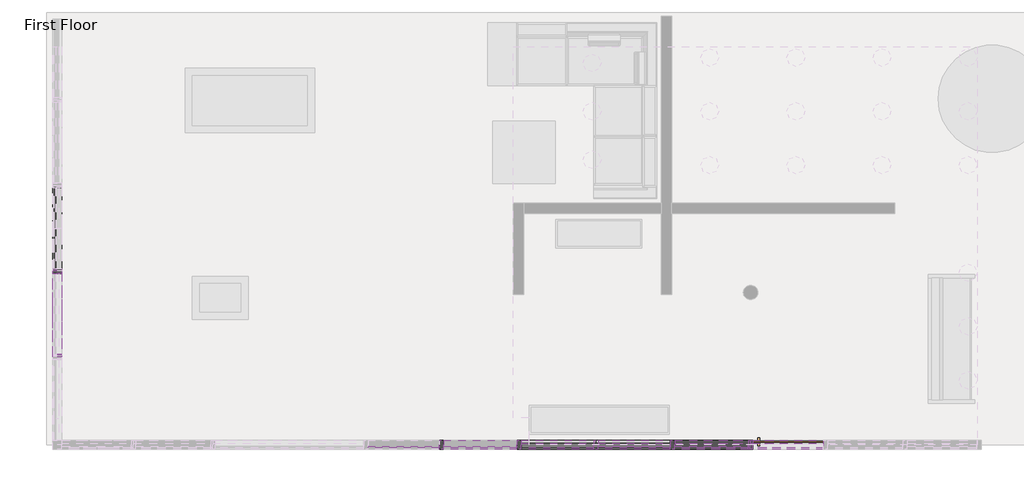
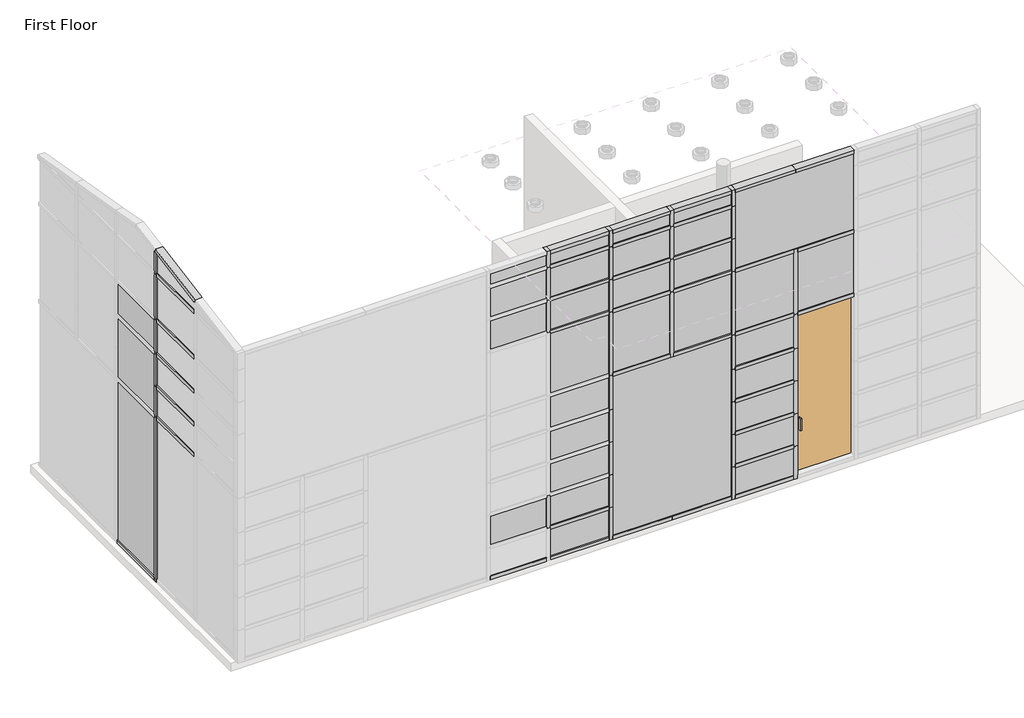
# One storey, part 2 of 5: 75 members, 33 plates, 1 door.
"""IFC4 building model written with IfcOpenShell, lengths in millimetres."""

from ifc_helpers import new_model, si_unit, origin, place, context, project, spatial, transform, mapped, element, save
from components import curtain_wall_sgl_glass_curtain_wall_sgl_glass_4a097fc2, rectangular_mullion_rectangular_mullion_1_6e77e263, rectangular_mullion_rectangular_mullion_1_75d1e245, rectangular_mullion_rectangular_mullion_1_2b49869a, rectangular_mullion_rectangular_mullion_1_51170729, rectangular_mullion_rectangular_mullion_1_b3f2e294, rectangular_mullion_rectangular_mullion_1_c0a49549, rectangular_mullion_rectangular_mullion_1_1e21fa0c, rectangular_mullion_rectangular_mullion_1_54137339, rectangular_mullion_rectangular_mullion_1_29433100, rectangular_mullion_rectangular_mullion_1_bbfe0ad0, rectangular_mullion_rectangular_mullion_1_ff0bbc08, rectangular_mullion_rectangular_mullion_1_d58eba0a, rectangular_mullion_rectangular_mullion_1_1bcf3fab, rectangular_mullion_rectangular_mullion_1_5234fe7d, rectangular_mullion_rectangular_mullion_1_c5460103, rectangular_mullion_rectangular_mullion_1_691106c5, rectangular_mullion_rectangular_mullion_1_d740f499, rectangular_mullion_rectangular_mullion_1_b03e071e, rectangular_mullion_rectangular_mullion_1_b5e65c95, rectangular_mullion_rectangular_mullion_1_7db1855a, rectangular_mullion_rectangular_mullion_1_4bdfacaf, system_panel_glazed_b7f75081, system_panel_glazed_c2a5712b, system_panel_glazed_cc9c3ac5, system_panel_glazed_cbd16b08, system_panel_glazed_2df7e5ea, system_panel_glazed_2ca8d0b5, system_panel_glazed_4e6e4b53, system_panel_glazed_07a2db1d, system_panel_glazed_ced5f5b3, system_panel_glazed_e0c4105e, system_panel_glazed_fd82c8fe, system_panel_solid_grey_06e47abe, system_panel_solid_grey_c3fb54ce, system_panel_solid_grey_7a3e4570, system_panel_solid_red_d6829c82, system_panel_solid_red_5ddafcfa, system_panel_solid_red_a342d3c4, system_panel_solid_white_9a74bd08

model = new_model("IFC4")

# Units and contexts
model_context = context("Model", 3, world=origin())
ifc_project = project(units=[si_unit("LENGTHUNIT", "METRE", prefix="MILLI")], contexts=[model_context])

# Site, building, storey
site = spatial("IfcSite", under=ifc_project)
building = spatial("IfcBuilding", under=site)
storey = spatial("IfcBuildingStorey", under=building, Name="First Floor", Elevation=0.0)

# Door
placement = place(None, origin())
curtain_wall_sgl_glass_curtain_wall_sgl_glass_shape = curtain_wall_sgl_glass_curtain_wall_sgl_glass_4a097fc2(model_context)
element("IfcDoor", 1, ObjectType="Curtain Wall Sgl Glass : Curtain Wall Sgl Glass", at=placement, inside=storey, context=model_context, shape_type="MappedRepresentation", body=[
    mapped(curtain_wall_sgl_glass_curtain_wall_sgl_glass_shape, transform((-337.8110551, 6074.9400612, 63.5), x_axis=(1.0, 0.0, 0.0), y_axis=(0.0, 1.0, 0.0), z_axis=(0.0, 0.0, 1.0))),
])

# Members
rectangular_mullion_rectangular_mullion_1_shape = rectangular_mullion_rectangular_mullion_1_6e77e263(model_context)
element("IfcMember", 2, ObjectType="Rectangular Mullion : Rectangular Mullion 1", at=placement, inside=storey, context=model_context, shape_type="MappedRepresentation", body=[
    mapped(rectangular_mullion_rectangular_mullion_1_shape, transform((-1972.9360551, 6074.9400612, 0.0), x_axis=(-1.0, 0.0, 0.0), y_axis=(0.0, 1.0, 0.0), z_axis=(0.0, 0.0, -1.0))),
])
element("IfcMember", 3, ObjectType="Rectangular Mullion : Rectangular Mullion 1", at=placement, inside=storey, context=model_context, shape_type="MappedRepresentation", body=[
    mapped(rectangular_mullion_rectangular_mullion_1_shape, transform((-4141.0074836, 6074.9400612, 0.0), x_axis=(-1.0, 0.0, 0.0), y_axis=(0.0, 1.0, 0.0), z_axis=(0.0, 0.0, -1.0))),
])
element("IfcMember", 4, ObjectType="Rectangular Mullion : Rectangular Mullion 1", at=placement, inside=storey, context=model_context, shape_type="MappedRepresentation", body=[
    mapped(rectangular_mullion_rectangular_mullion_1_shape, transform((-870.7574836, 6074.9400612, 0.0), x_axis=(-1.0, 0.0, 0.0), y_axis=(0.0, 1.0, 0.0), z_axis=(0.0, 0.0, -1.0))),
])
element("IfcMember", 5, ObjectType="Rectangular Mullion : Rectangular Mullion 1", at=placement, inside=storey, context=model_context, shape_type="MappedRepresentation", body=[
    mapped(rectangular_mullion_rectangular_mullion_1_shape, transform((-870.7574836, 6074.9400612, 1219.2), x_axis=(-1.0, 0.0, 0.0), y_axis=(0.0, 1.0, 0.0), z_axis=(0.0, 0.0, -1.0))),
])
element("IfcMember", 6, ObjectType="Rectangular Mullion : Rectangular Mullion 1", at=placement, inside=storey, context=model_context, shape_type="MappedRepresentation", body=[
    mapped(rectangular_mullion_rectangular_mullion_1_shape, transform((-1972.9360551, 6074.9400612, 1219.2), x_axis=(-1.0, 0.0, 0.0), y_axis=(0.0, 1.0, 0.0), z_axis=(0.0, 0.0, -1.0))),
])
element("IfcMember", 7, ObjectType="Rectangular Mullion : Rectangular Mullion 1", at=placement, inside=storey, context=model_context, shape_type="MappedRepresentation", body=[
    mapped(rectangular_mullion_rectangular_mullion_1_shape, transform((-4141.0074836, 6074.9400612, 1219.2), x_axis=(-1.0, 0.0, 0.0), y_axis=(0.0, 1.0, 0.0), z_axis=(0.0, 0.0, -1.0))),
])
element("IfcMember", 8, ObjectType="Rectangular Mullion : Rectangular Mullion 1", at=placement, inside=storey, context=model_context, shape_type="MappedRepresentation", body=[
    mapped(rectangular_mullion_rectangular_mullion_1_shape, transform((-870.7574836, 6074.9400612, 1828.8), x_axis=(-1.0, 0.0, 0.0), y_axis=(0.0, 1.0, 0.0), z_axis=(0.0, 0.0, -1.0))),
])
element("IfcMember", 9, ObjectType="Rectangular Mullion : Rectangular Mullion 1", at=placement, inside=storey, context=model_context, shape_type="MappedRepresentation", body=[
    mapped(rectangular_mullion_rectangular_mullion_1_shape, transform((-1972.9360551, 6074.9400612, 1828.8), x_axis=(-1.0, 0.0, 0.0), y_axis=(0.0, 1.0, 0.0), z_axis=(0.0, 0.0, -1.0))),
])
element("IfcMember", 10, ObjectType="Rectangular Mullion : Rectangular Mullion 1", at=placement, inside=storey, context=model_context, shape_type="MappedRepresentation", body=[
    mapped(rectangular_mullion_rectangular_mullion_1_shape, transform((-4141.0074836, 6074.9400612, 1828.8), x_axis=(-1.0, 0.0, 0.0), y_axis=(0.0, 1.0, 0.0), z_axis=(0.0, 0.0, -1.0))),
])
element("IfcMember", 11, ObjectType="Rectangular Mullion : Rectangular Mullion 1", at=placement, inside=storey, context=model_context, shape_type="MappedRepresentation", body=[
    mapped(rectangular_mullion_rectangular_mullion_1_shape, transform((-870.7574836, 6074.9400612, 609.6), x_axis=(-1.0, 0.0, 0.0), y_axis=(0.0, 1.0, 0.0), z_axis=(0.0, 0.0, -1.0))),
])
element("IfcMember", 12, ObjectType="Rectangular Mullion : Rectangular Mullion 1", at=placement, inside=storey, context=model_context, shape_type="MappedRepresentation", body=[
    mapped(rectangular_mullion_rectangular_mullion_1_shape, transform((-1972.9360551, 6074.9400612, 609.6), x_axis=(-1.0, 0.0, 0.0), y_axis=(0.0, 1.0, 0.0), z_axis=(0.0, 0.0, -1.0))),
])
element("IfcMember", 13, ObjectType="Rectangular Mullion : Rectangular Mullion 1", at=placement, inside=storey, context=model_context, shape_type="MappedRepresentation", body=[
    mapped(rectangular_mullion_rectangular_mullion_1_shape, transform((-4141.0074836, 6074.9400612, 609.6), x_axis=(-1.0, 0.0, 0.0), y_axis=(0.0, 1.0, 0.0), z_axis=(0.0, 0.0, -1.0))),
])
element("IfcMember", 14, ObjectType="Rectangular Mullion : Rectangular Mullion 1", at=placement, inside=storey, context=model_context, shape_type="MappedRepresentation", body=[
    mapped(rectangular_mullion_rectangular_mullion_1_shape, transform((-5243.186055, 6074.9400612, 609.6), x_axis=(-1.0, 0.0, 0.0), y_axis=(0.0, 1.0, 0.0), z_axis=(0.0, 0.0, -1.0))),
])
element("IfcMember", 15, ObjectType="Rectangular Mullion : Rectangular Mullion 1", at=placement, inside=storey, context=model_context, shape_type="MappedRepresentation", body=[
    mapped(rectangular_mullion_rectangular_mullion_1_shape, transform((-1972.9360551, 6074.9400612, 4876.8), x_axis=(-1.0, 0.0, 0.0), y_axis=(0.0, 1.0, 0.0), z_axis=(0.0, 0.0, -1.0))),
])
element("IfcMember", 16, ObjectType="Rectangular Mullion : Rectangular Mullion 1", at=placement, inside=storey, context=model_context, shape_type="MappedRepresentation", body=[
    mapped(rectangular_mullion_rectangular_mullion_1_shape, transform((-3056.9717693, 6074.9400612, 4876.8), x_axis=(-1.0, 0.0, 0.0), y_axis=(0.0, 1.0, 0.0), z_axis=(0.0, 0.0, -1.0))),
])
element("IfcMember", 17, ObjectType="Rectangular Mullion : Rectangular Mullion 1", at=placement, inside=storey, context=model_context, shape_type="MappedRepresentation", body=[
    mapped(rectangular_mullion_rectangular_mullion_1_shape, transform((-4141.0074836, 6074.9400612, 4876.8), x_axis=(-1.0, 0.0, 0.0), y_axis=(0.0, 1.0, 0.0), z_axis=(0.0, 0.0, -1.0))),
])
element("IfcMember", 18, ObjectType="Rectangular Mullion : Rectangular Mullion 1", at=placement, inside=storey, context=model_context, shape_type="MappedRepresentation", body=[
    mapped(rectangular_mullion_rectangular_mullion_1_shape, transform((-5243.186055, 6074.9400612, 4876.8), x_axis=(-1.0, 0.0, 0.0), y_axis=(0.0, 1.0, 0.0), z_axis=(0.0, 0.0, -1.0))),
])
element("IfcMember", 19, ObjectType="Rectangular Mullion : Rectangular Mullion 1", at=placement, inside=storey, context=model_context, shape_type="MappedRepresentation", body=[
    mapped(rectangular_mullion_rectangular_mullion_1_shape, transform((-1972.9360551, 6074.9400612, 4267.2), x_axis=(-1.0, 0.0, 0.0), y_axis=(0.0, 1.0, 0.0), z_axis=(0.0, 0.0, -1.0))),
])
element("IfcMember", 20, ObjectType="Rectangular Mullion : Rectangular Mullion 1", at=placement, inside=storey, context=model_context, shape_type="MappedRepresentation", body=[
    mapped(rectangular_mullion_rectangular_mullion_1_shape, transform((-3056.9717693, 6074.9400612, 4267.2), x_axis=(-1.0, 0.0, 0.0), y_axis=(0.0, 1.0, 0.0), z_axis=(0.0, 0.0, -1.0))),
])
element("IfcMember", 21, ObjectType="Rectangular Mullion : Rectangular Mullion 1", at=placement, inside=storey, context=model_context, shape_type="MappedRepresentation", body=[
    mapped(rectangular_mullion_rectangular_mullion_1_shape, transform((-4141.0074836, 6074.9400612, 4267.2), x_axis=(-1.0, 0.0, 0.0), y_axis=(0.0, 1.0, 0.0), z_axis=(0.0, 0.0, -1.0))),
])
element("IfcMember", 22, ObjectType="Rectangular Mullion : Rectangular Mullion 1", at=placement, inside=storey, context=model_context, shape_type="MappedRepresentation", body=[
    mapped(rectangular_mullion_rectangular_mullion_1_shape, transform((-5243.186055, 6074.9400612, 4267.2), x_axis=(-1.0, 0.0, 0.0), y_axis=(0.0, 1.0, 0.0), z_axis=(0.0, 0.0, -1.0))),
])
element("IfcMember", 23, ObjectType="Rectangular Mullion : Rectangular Mullion 1", at=placement, inside=storey, context=model_context, shape_type="MappedRepresentation", body=[
    mapped(rectangular_mullion_rectangular_mullion_1_shape, transform((-10676.9717693, 8534.9300612, 3657.6), x_axis=(0.0, 1.0, 0.0), y_axis=(1.0, 0.0, 0.0), z_axis=(0.0, 0.0, -1.0))),
])
rectangular_mullion_rectangular_mullion_1_2_shape = rectangular_mullion_rectangular_mullion_1_75d1e245(model_context)
element("IfcMember", 24, ObjectType="Rectangular Mullion : Rectangular Mullion 1", at=placement, inside=storey, context=model_context, shape_type="MappedRepresentation", body=[
    mapped(rectangular_mullion_rectangular_mullion_1_2_shape, transform((-1972.9360551, 6074.9400612, 5486.4), x_axis=(-1.0, 0.0, 0.0), y_axis=(0.0, 1.0, 0.0), z_axis=(0.0, 0.0, -1.0))),
])
element("IfcMember", 25, ObjectType="Rectangular Mullion : Rectangular Mullion 1", at=placement, inside=storey, context=model_context, shape_type="MappedRepresentation", body=[
    mapped(rectangular_mullion_rectangular_mullion_1_2_shape, transform((-3056.9717693, 6074.9400612, 5486.4), x_axis=(-1.0, 0.0, 0.0), y_axis=(0.0, 1.0, 0.0), z_axis=(0.0, 0.0, -1.0))),
])
element("IfcMember", 26, ObjectType="Rectangular Mullion : Rectangular Mullion 1", at=placement, inside=storey, context=model_context, shape_type="MappedRepresentation", body=[
    mapped(rectangular_mullion_rectangular_mullion_1_2_shape, transform((-4141.0074836, 6074.9400612, 5486.4), x_axis=(-1.0, 0.0, 0.0), y_axis=(0.0, 1.0, 0.0), z_axis=(0.0, 0.0, -1.0))),
])
element("IfcMember", 27, ObjectType="Rectangular Mullion : Rectangular Mullion 1", at=placement, inside=storey, context=model_context, shape_type="MappedRepresentation", body=[
    mapped(rectangular_mullion_rectangular_mullion_1_2_shape, transform((-5243.186055, 6074.9400612, 5486.4), x_axis=(-1.0, 0.0, 0.0), y_axis=(0.0, 1.0, 0.0), z_axis=(0.0, 0.0, -1.0))),
])
rectangular_mullion_rectangular_mullion_1_3_shape = rectangular_mullion_rectangular_mullion_1_2b49869a(model_context)
element("IfcMember", 28, ObjectType="Rectangular Mullion : Rectangular Mullion 1", at=placement, inside=storey, context=model_context, shape_type="MappedRepresentation", body=[
    mapped(rectangular_mullion_rectangular_mullion_1_3_shape, transform((-3056.9717693, 6074.9400612, 3048.0), x_axis=(-1.0, 0.0, 0.0), y_axis=(0.0, 1.0, 0.0), z_axis=(0.0, 0.0, -1.0))),
])
rectangular_mullion_rectangular_mullion_1_4_shape = rectangular_mullion_rectangular_mullion_1_51170729(model_context)
element("IfcMember", 29, ObjectType="Rectangular Mullion : Rectangular Mullion 1", at=placement, inside=storey, context=model_context, shape_type="MappedRepresentation", body=[
    mapped(rectangular_mullion_rectangular_mullion_1_4_shape, transform((-870.7574836, 6074.9400612, 2438.4), x_axis=(-1.0, 0.0, 0.0), y_axis=(0.0, 1.0, 0.0), z_axis=(0.0, 0.0, -1.0))),
])
element("IfcMember", 30, ObjectType="Rectangular Mullion : Rectangular Mullion 1", at=placement, inside=storey, context=model_context, shape_type="MappedRepresentation", body=[
    mapped(rectangular_mullion_rectangular_mullion_1_4_shape, transform((-1972.9360551, 6074.9400612, 2438.4), x_axis=(-1.0, 0.0, 0.0), y_axis=(0.0, 1.0, 0.0), z_axis=(0.0, 0.0, -1.0))),
])
element("IfcMember", 31, ObjectType="Rectangular Mullion : Rectangular Mullion 1", at=placement, inside=storey, context=model_context, shape_type="MappedRepresentation", body=[
    mapped(rectangular_mullion_rectangular_mullion_1_4_shape, transform((-4141.0074836, 6074.9400612, 2438.4), x_axis=(-1.0, 0.0, 0.0), y_axis=(0.0, 1.0, 0.0), z_axis=(0.0, 0.0, -1.0))),
])
element("IfcMember", 32, ObjectType="Rectangular Mullion : Rectangular Mullion 1", at=placement, inside=storey, context=model_context, shape_type="MappedRepresentation", body=[
    mapped(rectangular_mullion_rectangular_mullion_1_4_shape, transform((-10676.9717693, 8534.9300612, 4267.2), x_axis=(0.0, 1.0, 0.0), y_axis=(1.0, 0.0, 0.0), z_axis=(0.0, 0.0, -1.0))),
])
rectangular_mullion_rectangular_mullion_1_5_shape = rectangular_mullion_rectangular_mullion_1_b3f2e294(model_context)
element("IfcMember", 33, ObjectType="Rectangular Mullion : Rectangular Mullion 1", at=placement, inside=storey, context=model_context, shape_type="MappedRepresentation", body=[
    mapped(rectangular_mullion_rectangular_mullion_1_5_shape, transform((-1972.9360551, 6074.9400612, 3079.75), x_axis=(-1.0, 0.0, 0.0), y_axis=(0.0, 1.0, 0.0), z_axis=(0.0, 0.0, -1.0))),
])
element("IfcMember", 34, ObjectType="Rectangular Mullion : Rectangular Mullion 1", at=placement, inside=storey, context=model_context, shape_type="MappedRepresentation", body=[
    mapped(rectangular_mullion_rectangular_mullion_1_5_shape, transform((-4141.0074836, 6074.9400612, 3079.75), x_axis=(-1.0, 0.0, 0.0), y_axis=(0.0, 1.0, 0.0), z_axis=(0.0, 0.0, -1.0))),
])
rectangular_mullion_rectangular_mullion_1_6_shape = rectangular_mullion_rectangular_mullion_1_c0a49549(model_context)
element("IfcMember", 35, ObjectType="Rectangular Mullion : Rectangular Mullion 1", at=placement, inside=storey, context=model_context, shape_type="MappedRepresentation", body=[
    mapped(rectangular_mullion_rectangular_mullion_1_6_shape, transform((-839.0074836, 6074.9400612, 3079.75), x_axis=(0.0, 0.0, 1.0), y_axis=(0.0, 1.0, 0.0), z_axis=(-1.0, 0.0, 0.0))),
])
element("IfcMember", 36, ObjectType="Rectangular Mullion : Rectangular Mullion 1", at=placement, inside=storey, context=model_context, shape_type="MappedRepresentation", body=[
    mapped(rectangular_mullion_rectangular_mullion_1_6_shape, transform((-839.0074836, 6074.9400612, 4267.2), x_axis=(0.0, 0.0, 1.0), y_axis=(0.0, 1.0, 0.0), z_axis=(-1.0, 0.0, 0.0))),
])
rectangular_mullion_rectangular_mullion_1_7_shape = rectangular_mullion_rectangular_mullion_1_1e21fa0c(model_context)
element("IfcMember", 37, ObjectType="Rectangular Mullion : Rectangular Mullion 1", at=placement, inside=storey, context=model_context, shape_type="MappedRepresentation", body=[
    mapped(rectangular_mullion_rectangular_mullion_1_7_shape, transform((-3025.2217693, 6074.9400612, 3079.75), x_axis=(0.0, 0.0, 1.0), y_axis=(0.0, 1.0, 0.0), z_axis=(-1.0, 0.0, 0.0))),
])
element("IfcMember", 38, ObjectType="Rectangular Mullion : Rectangular Mullion 1", at=placement, inside=storey, context=model_context, shape_type="MappedRepresentation", body=[
    mapped(rectangular_mullion_rectangular_mullion_1_7_shape, transform((-4109.2574836, 6074.9400612, 3079.75), x_axis=(0.0, 0.0, 1.0), y_axis=(0.0, 1.0, 0.0), z_axis=(-1.0, 0.0, 0.0))),
])
element("IfcMember", 39, ObjectType="Rectangular Mullion : Rectangular Mullion 1", at=placement, inside=storey, context=model_context, shape_type="MappedRepresentation", body=[
    mapped(rectangular_mullion_rectangular_mullion_1_7_shape, transform((-3025.2217693, 6074.9400612, 4876.8), x_axis=(0.0, 0.0, 1.0), y_axis=(0.0, 1.0, 0.0), z_axis=(-1.0, 0.0, 0.0))),
])
element("IfcMember", 40, ObjectType="Rectangular Mullion : Rectangular Mullion 1", at=placement, inside=storey, context=model_context, shape_type="MappedRepresentation", body=[
    mapped(rectangular_mullion_rectangular_mullion_1_7_shape, transform((-4109.2574836, 6074.9400612, 4876.8), x_axis=(0.0, 0.0, 1.0), y_axis=(0.0, 1.0, 0.0), z_axis=(-1.0, 0.0, 0.0))),
])
element("IfcMember", 41, ObjectType="Rectangular Mullion : Rectangular Mullion 1", at=placement, inside=storey, context=model_context, shape_type="MappedRepresentation", body=[
    mapped(rectangular_mullion_rectangular_mullion_1_7_shape, transform((-3025.2217693, 6074.9400612, 5486.4), x_axis=(0.0, 0.0, 1.0), y_axis=(0.0, 1.0, 0.0), z_axis=(-1.0, 0.0, 0.0))),
])
element("IfcMember", 42, ObjectType="Rectangular Mullion : Rectangular Mullion 1", at=placement, inside=storey, context=model_context, shape_type="MappedRepresentation", body=[
    mapped(rectangular_mullion_rectangular_mullion_1_7_shape, transform((-4109.2574836, 6074.9400612, 5486.4), x_axis=(0.0, 0.0, 1.0), y_axis=(0.0, 1.0, 0.0), z_axis=(-1.0, 0.0, 0.0))),
])
element("IfcMember", 43, ObjectType="Rectangular Mullion : Rectangular Mullion 1", at=placement, inside=storey, context=model_context, shape_type="MappedRepresentation", body=[
    mapped(rectangular_mullion_rectangular_mullion_1_7_shape, transform((-3025.2217693, 6074.9400612, 4267.2), x_axis=(0.0, 0.0, 1.0), y_axis=(0.0, 1.0, 0.0), z_axis=(-1.0, 0.0, 0.0))),
])
element("IfcMember", 44, ObjectType="Rectangular Mullion : Rectangular Mullion 1", at=placement, inside=storey, context=model_context, shape_type="MappedRepresentation", body=[
    mapped(rectangular_mullion_rectangular_mullion_1_7_shape, transform((-4109.2574836, 6074.9400612, 4267.2), x_axis=(0.0, 0.0, 1.0), y_axis=(0.0, 1.0, 0.0), z_axis=(-1.0, 0.0, 0.0))),
])
rectangular_mullion_rectangular_mullion_1_8_shape = rectangular_mullion_rectangular_mullion_1_54137339(model_context)
element("IfcMember", 45, ObjectType="Rectangular Mullion : Rectangular Mullion 1", at=placement, inside=storey, context=model_context, shape_type="MappedRepresentation", body=[
    mapped(rectangular_mullion_rectangular_mullion_1_8_shape, transform((-1941.1860551, 6074.9400612, 3079.75), x_axis=(0.0, 0.0, 1.0), y_axis=(0.0, 1.0, 0.0), z_axis=(-1.0, 0.0, 0.0))),
])
element("IfcMember", 46, ObjectType="Rectangular Mullion : Rectangular Mullion 1", at=placement, inside=storey, context=model_context, shape_type="MappedRepresentation", body=[
    mapped(rectangular_mullion_rectangular_mullion_1_8_shape, transform((-1941.1860551, 6074.9400612, 2438.4), x_axis=(0.0, 0.0, 1.0), y_axis=(0.0, 1.0, 0.0), z_axis=(-1.0, 0.0, 0.0))),
])
element("IfcMember", 47, ObjectType="Rectangular Mullion : Rectangular Mullion 1", at=placement, inside=storey, context=model_context, shape_type="MappedRepresentation", body=[
    mapped(rectangular_mullion_rectangular_mullion_1_8_shape, transform((-1941.1860551, 6074.9400612, 1219.2), x_axis=(0.0, 0.0, 1.0), y_axis=(0.0, 1.0, 0.0), z_axis=(-1.0, 0.0, 0.0))),
])
element("IfcMember", 48, ObjectType="Rectangular Mullion : Rectangular Mullion 1", at=placement, inside=storey, context=model_context, shape_type="MappedRepresentation", body=[
    mapped(rectangular_mullion_rectangular_mullion_1_8_shape, transform((-1941.1860551, 6074.9400612, 1828.8), x_axis=(0.0, 0.0, 1.0), y_axis=(0.0, 1.0, 0.0), z_axis=(-1.0, 0.0, 0.0))),
])
element("IfcMember", 49, ObjectType="Rectangular Mullion : Rectangular Mullion 1", at=placement, inside=storey, context=model_context, shape_type="MappedRepresentation", body=[
    mapped(rectangular_mullion_rectangular_mullion_1_8_shape, transform((-1941.1860551, 6074.9400612, 609.6), x_axis=(0.0, 0.0, 1.0), y_axis=(0.0, 1.0, 0.0), z_axis=(-1.0, 0.0, 0.0))),
])
element("IfcMember", 50, ObjectType="Rectangular Mullion : Rectangular Mullion 1", at=placement, inside=storey, context=model_context, shape_type="MappedRepresentation", body=[
    mapped(rectangular_mullion_rectangular_mullion_1_8_shape, transform((-5211.436055, 6074.9400612, 609.6), x_axis=(0.0, 0.0, 1.0), y_axis=(0.0, 1.0, 0.0), z_axis=(-1.0, 0.0, 0.0))),
])
element("IfcMember", 51, ObjectType="Rectangular Mullion : Rectangular Mullion 1", at=placement, inside=storey, context=model_context, shape_type="MappedRepresentation", body=[
    mapped(rectangular_mullion_rectangular_mullion_1_8_shape, transform((-5211.436055, 6074.9400612, 4876.8), x_axis=(0.0, 0.0, 1.0), y_axis=(0.0, 1.0, 0.0), z_axis=(-1.0, 0.0, 0.0))),
])
element("IfcMember", 52, ObjectType="Rectangular Mullion : Rectangular Mullion 1", at=placement, inside=storey, context=model_context, shape_type="MappedRepresentation", body=[
    mapped(rectangular_mullion_rectangular_mullion_1_8_shape, transform((-5211.436055, 6074.9400612, 5486.4), x_axis=(0.0, 0.0, 1.0), y_axis=(0.0, 1.0, 0.0), z_axis=(-1.0, 0.0, 0.0))),
])
element("IfcMember", 53, ObjectType="Rectangular Mullion : Rectangular Mullion 1", at=placement, inside=storey, context=model_context, shape_type="MappedRepresentation", body=[
    mapped(rectangular_mullion_rectangular_mullion_1_8_shape, transform((-1941.1860551, 6074.9400612, 4267.2), x_axis=(0.0, 0.0, 1.0), y_axis=(0.0, 1.0, 0.0), z_axis=(-1.0, 0.0, 0.0))),
])
element("IfcMember", 54, ObjectType="Rectangular Mullion : Rectangular Mullion 1", at=placement, inside=storey, context=model_context, shape_type="MappedRepresentation", body=[
    mapped(rectangular_mullion_rectangular_mullion_1_8_shape, transform((-5211.436055, 6074.9400612, 4267.2), x_axis=(0.0, 0.0, 1.0), y_axis=(0.0, 1.0, 0.0), z_axis=(-1.0, 0.0, 0.0))),
])
rectangular_mullion_rectangular_mullion_1_9_shape = rectangular_mullion_rectangular_mullion_1_29433100(model_context)
element("IfcMember", 55, ObjectType="Rectangular Mullion : Rectangular Mullion 1", at=placement, inside=storey, context=model_context, shape_type="MappedRepresentation", body=[
    mapped(rectangular_mullion_rectangular_mullion_1_9_shape, transform((-5274.936055, 6074.9400612, 0.0), x_axis=(0.0, 0.0, -1.0), y_axis=(0.0, 1.0, 0.0), z_axis=(1.0, 0.0, 0.0))),
])
rectangular_mullion_rectangular_mullion_1_10_shape = rectangular_mullion_rectangular_mullion_1_bbfe0ad0(model_context)
element("IfcMember", 56, ObjectType="Rectangular Mullion : Rectangular Mullion 1", at=placement, inside=storey, context=model_context, shape_type="MappedRepresentation", body=[
    mapped(rectangular_mullion_rectangular_mullion_1_10_shape, transform((-2004.6860551, 6074.9400612, 0.0), x_axis=(0.0, 0.0, -1.0), y_axis=(0.0, 1.0, 0.0), z_axis=(1.0, 0.0, 0.0))),
])
rectangular_mullion_rectangular_mullion_1_11_shape = rectangular_mullion_rectangular_mullion_1_ff0bbc08(model_context)
element("IfcMember", 57, ObjectType="Rectangular Mullion : Rectangular Mullion 1", at=placement, inside=storey, context=model_context, shape_type="MappedRepresentation", body=[
    mapped(rectangular_mullion_rectangular_mullion_1_11_shape, transform((-4172.7574836, 6074.9400612, 0.0), x_axis=(0.0, 0.0, -1.0), y_axis=(0.0, 1.0, 0.0), z_axis=(1.0, 0.0, 0.0))),
])
element("IfcMember", 58, ObjectType="Rectangular Mullion : Rectangular Mullion 1", at=placement, inside=storey, context=model_context, shape_type="MappedRepresentation", body=[
    mapped(rectangular_mullion_rectangular_mullion_1_11_shape, transform((-902.5074836, 6074.9400612, 0.0), x_axis=(0.0, 0.0, -1.0), y_axis=(0.0, 1.0, 0.0), z_axis=(1.0, 0.0, 0.0))),
])
element("IfcMember", 59, ObjectType="Rectangular Mullion : Rectangular Mullion 1", at=placement, inside=storey, context=model_context, shape_type="MappedRepresentation", body=[
    mapped(rectangular_mullion_rectangular_mullion_1_10_shape, transform((-3056.9717693, 6074.9400612, 0.0), x_axis=(0.0, 0.0, -1.0), y_axis=(0.0, 1.0, 0.0), z_axis=(1.0, 0.0, 0.0))),
])
rectangular_mullion_rectangular_mullion_1_12_shape = rectangular_mullion_rectangular_mullion_1_d58eba0a(model_context)
element("IfcMember", 60, ObjectType="Rectangular Mullion : Rectangular Mullion 1", at=placement, inside=storey, context=model_context, shape_type="MappedRepresentation", body=[
    mapped(rectangular_mullion_rectangular_mullion_1_12_shape, transform((-870.7574836, 6074.9400612, 5791.2), x_axis=(0.0, 0.0, 1.0), y_axis=(0.0, 1.0, 0.0), z_axis=(-1.0, 0.0, 0.0))),
])
rectangular_mullion_rectangular_mullion_1_13_shape = rectangular_mullion_rectangular_mullion_1_1bcf3fab(model_context)
element("IfcMember", 61, ObjectType="Rectangular Mullion : Rectangular Mullion 1", at=placement, inside=storey, context=model_context, shape_type="MappedRepresentation", body=[
    mapped(rectangular_mullion_rectangular_mullion_1_13_shape, transform((-1941.1860551, 6074.9400612, 5791.2), x_axis=(0.0, 0.0, 1.0), y_axis=(0.0, 1.0, 0.0), z_axis=(-1.0, 0.0, 0.0))),
])
rectangular_mullion_rectangular_mullion_1_14_shape = rectangular_mullion_rectangular_mullion_1_5234fe7d(model_context)
element("IfcMember", 62, ObjectType="Rectangular Mullion : Rectangular Mullion 1", at=placement, inside=storey, context=model_context, shape_type="MappedRepresentation", body=[
    mapped(rectangular_mullion_rectangular_mullion_1_14_shape, transform((-3025.2217693, 6074.9400612, 5791.2), x_axis=(0.0, 0.0, 1.0), y_axis=(0.0, 1.0, 0.0), z_axis=(-1.0, 0.0, 0.0))),
])
element("IfcMember", 63, ObjectType="Rectangular Mullion : Rectangular Mullion 1", at=placement, inside=storey, context=model_context, shape_type="MappedRepresentation", body=[
    mapped(rectangular_mullion_rectangular_mullion_1_14_shape, transform((-4109.2574836, 6074.9400612, 5791.2), x_axis=(0.0, 0.0, 1.0), y_axis=(0.0, 1.0, 0.0), z_axis=(-1.0, 0.0, 0.0))),
])
element("IfcMember", 64, ObjectType="Rectangular Mullion : Rectangular Mullion 1", at=placement, inside=storey, context=model_context, shape_type="MappedRepresentation", body=[
    mapped(rectangular_mullion_rectangular_mullion_1_11_shape, transform((-5211.436055, 6074.9400612, 5791.2), x_axis=(0.0, 0.0, 1.0), y_axis=(0.0, 1.0, 0.0), z_axis=(-1.0, 0.0, 0.0))),
])
rectangular_mullion_rectangular_mullion_1_15_shape = rectangular_mullion_rectangular_mullion_1_c5460103(model_context)
element("IfcMember", 65, ObjectType="Rectangular Mullion : Rectangular Mullion 1", at=placement, inside=storey, context=model_context, shape_type="MappedRepresentation", body=[
    mapped(rectangular_mullion_rectangular_mullion_1_15_shape, transform((-10676.9717693, 8566.6800612, 0.0), x_axis=(0.0, 0.0, -1.0), y_axis=(1.0, 0.0, 0.0), z_axis=(0.0, -1.0, 0.0))),
])
rectangular_mullion_rectangular_mullion_1_16_shape = rectangular_mullion_rectangular_mullion_1_691106c5(model_context)
element("IfcMember", 66, ObjectType="Rectangular Mullion : Rectangular Mullion 1", at=placement, inside=storey, context=model_context, shape_type="MappedRepresentation", body=[
    mapped(rectangular_mullion_rectangular_mullion_1_16_shape, transform((-10676.9717693, 8503.1800612, 3079.75), x_axis=(0.0, 0.0, 1.0), y_axis=(1.0, 0.0, 0.0), z_axis=(0.0, 1.0, 0.0))),
])
element("IfcMember", 67, ObjectType="Rectangular Mullion : Rectangular Mullion 1", at=placement, inside=storey, context=model_context, shape_type="MappedRepresentation", body=[
    mapped(rectangular_mullion_rectangular_mullion_1_16_shape, transform((-10676.9717693, 8503.1800612, 3657.6), x_axis=(0.0, 0.0, 1.0), y_axis=(1.0, 0.0, 0.0), z_axis=(0.0, 1.0, 0.0))),
])
element("IfcMember", 68, ObjectType="Rectangular Mullion : Rectangular Mullion 1", at=placement, inside=storey, context=model_context, shape_type="MappedRepresentation", body=[
    mapped(rectangular_mullion_rectangular_mullion_1_16_shape, transform((-10676.9717693, 8503.1800612, 4267.2), x_axis=(0.0, 0.0, 1.0), y_axis=(1.0, 0.0, 0.0), z_axis=(0.0, 1.0, 0.0))),
])
element("IfcMember", 69, ObjectType="Rectangular Mullion : Rectangular Mullion 1", at=placement, inside=storey, context=model_context, shape_type="MappedRepresentation", body=[
    mapped(rectangular_mullion_rectangular_mullion_1_16_shape, transform((-10676.9717693, 8503.1800612, 4908.55), x_axis=(0.0, 0.0, 1.0), y_axis=(1.0, 0.0, 0.0), z_axis=(0.0, 1.0, 0.0))),
])
element("IfcMember", 70, ObjectType="Rectangular Mullion : Rectangular Mullion 1", at=placement, inside=storey, context=model_context, shape_type="MappedRepresentation", body=[
    mapped(rectangular_mullion_rectangular_mullion_1_16_shape, transform((-10676.9717693, 8503.1800612, 5759.45), x_axis=(0.0, 0.0, 1.0), y_axis=(1.0, 0.0, 0.0), z_axis=(0.0, 1.0, 0.0))),
])
rectangular_mullion_rectangular_mullion_1_17_shape = rectangular_mullion_rectangular_mullion_1_d740f499(model_context)
element("IfcMember", 71, ObjectType="Rectangular Mullion : Rectangular Mullion 1", at=placement, inside=storey, context=model_context, shape_type="MappedRepresentation", body=[
    mapped(rectangular_mullion_rectangular_mullion_1_17_shape, transform((-10676.9717693, 8534.9300612, 6224.9626093), x_axis=(0.0, -0.17364817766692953, 0.9848077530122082), y_axis=(1.0, 0.0, 0.0), z_axis=(0.0, 0.9848077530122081, 0.1736481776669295))),
])
rectangular_mullion_rectangular_mullion_1_18_shape = rectangular_mullion_rectangular_mullion_1_b03e071e(model_context)
element("IfcMember", 72, ObjectType="Rectangular Mullion : Rectangular Mullion 1", at=placement, inside=storey, context=model_context, shape_type="MappedRepresentation", body=[
    mapped(rectangular_mullion_rectangular_mullion_1_18_shape, transform((-10676.9717693, 8534.9300612, 0.0), x_axis=(0.0, 1.0, 0.0), y_axis=(1.0, 0.0, 0.0), z_axis=(0.0, 0.0, -1.0))),
])
rectangular_mullion_rectangular_mullion_1_19_shape = rectangular_mullion_rectangular_mullion_1_b5e65c95(model_context)
element("IfcMember", 73, ObjectType="Rectangular Mullion : Rectangular Mullion 1", at=placement, inside=storey, context=model_context, shape_type="MappedRepresentation", body=[
    mapped(rectangular_mullion_rectangular_mullion_1_19_shape, transform((-10676.9717693, 8534.9300612, 3079.75), x_axis=(0.0, 1.0, 0.0), y_axis=(1.0, 0.0, 0.0), z_axis=(0.0, 0.0, -1.0))),
])
rectangular_mullion_rectangular_mullion_1_20_shape = rectangular_mullion_rectangular_mullion_1_7db1855a(model_context)
element("IfcMember", 74, ObjectType="Rectangular Mullion : Rectangular Mullion 1", at=placement, inside=storey, context=model_context, shape_type="MappedRepresentation", body=[
    mapped(rectangular_mullion_rectangular_mullion_1_20_shape, transform((-10676.9717693, 8534.9300612, 4908.55), x_axis=(0.0, 1.0, 0.0), y_axis=(1.0, 0.0, 0.0), z_axis=(0.0, 0.0, -1.0))),
])
rectangular_mullion_rectangular_mullion_1_21_shape = rectangular_mullion_rectangular_mullion_1_4bdfacaf(model_context)
element("IfcMember", 75, ObjectType="Rectangular Mullion : Rectangular Mullion 1", at=placement, inside=storey, context=model_context, shape_type="MappedRepresentation", body=[
    mapped(rectangular_mullion_rectangular_mullion_1_21_shape, transform((-10676.9717693, 8534.9300612, 5759.45), x_axis=(0.0, 1.0, 0.0), y_axis=(1.0, 0.0, 0.0), z_axis=(0.0, 0.0, -1.0))),
])
element("IfcMember", 76, ObjectType="Rectangular Mullion : Rectangular Mullion 1", at=placement, inside=storey, context=model_context, shape_type="MappedRepresentation", body=[
    mapped(rectangular_mullion_rectangular_mullion_1_3_shape, transform((-870.7574836, 6074.9400612, 3079.75), x_axis=(-1.0, 0.0, 0.0), y_axis=(0.0, 1.0, 0.0), z_axis=(0.0, 0.0, -1.0))),
])

# Plates
system_panel_glazed_shape = system_panel_glazed_b7f75081(model_context)
element("IfcPlate", 77, ObjectType="System Panel : Glazed", at=placement, inside=storey, context=model_context, shape_type="MappedRepresentation", body=[
    mapped(system_panel_glazed_shape, transform((-4692.0967693, 6074.9400612, 63.5), x_axis=(-1.0, 0.0, 0.0), y_axis=(0.0, -1.0, 0.0), z_axis=(0.0, 0.0, 1.0))),
])
element("IfcPlate", 78, ObjectType="System Panel : Glazed", at=placement, inside=storey, context=model_context, shape_type="MappedRepresentation", body=[
    mapped(system_panel_glazed_shape, transform((-1421.8467693, 6074.9400612, 63.5), x_axis=(-1.0, 0.0, 0.0), y_axis=(0.0, -1.0, 0.0), z_axis=(0.0, 0.0, 1.0))),
])
system_panel_glazed_2_shape = system_panel_glazed_c2a5712b(model_context)
element("IfcPlate", 79, ObjectType="System Panel : Glazed", at=placement, inside=storey, context=model_context, shape_type="MappedRepresentation", body=[
    mapped(system_panel_glazed_2_shape, transform((-4692.0967693, 6074.9400612, 3111.5), x_axis=(-1.0, 0.0, 0.0), y_axis=(0.0, -1.0, 0.0), z_axis=(0.0, 0.0, 1.0))),
])
system_panel_glazed_3_shape = system_panel_glazed_cc9c3ac5(model_context)
element("IfcPlate", 80, ObjectType="System Panel : Glazed", at=placement, inside=storey, context=model_context, shape_type="MappedRepresentation", body=[
    mapped(system_panel_glazed_3_shape, transform((-1421.8467693, 6074.9400612, 2470.15), x_axis=(-1.0, 0.0, 0.0), y_axis=(0.0, -1.0, 0.0), z_axis=(0.0, 0.0, 1.0))),
])
element("IfcPlate", 81, ObjectType="System Panel : Glazed", at=placement, inside=storey, context=model_context, shape_type="MappedRepresentation", body=[
    mapped(system_panel_glazed_3_shape, transform((-4692.0967693, 6074.9400612, 2470.15), x_axis=(-1.0, 0.0, 0.0), y_axis=(0.0, -1.0, 0.0), z_axis=(0.0, 0.0, 1.0))),
])
system_panel_glazed_4_shape = system_panel_glazed_cbd16b08(model_context)
element("IfcPlate", 82, ObjectType="System Panel : Glazed", at=placement, inside=storey, context=model_context, shape_type="MappedRepresentation", body=[
    mapped(system_panel_glazed_4_shape, transform((-1421.8467693, 6074.9400612, 1250.95), x_axis=(-1.0, 0.0, 0.0), y_axis=(0.0, -1.0, 0.0), z_axis=(0.0, 0.0, 1.0))),
])
element("IfcPlate", 83, ObjectType="System Panel : Glazed", at=placement, inside=storey, context=model_context, shape_type="MappedRepresentation", body=[
    mapped(system_panel_glazed_4_shape, transform((-4692.0967693, 6074.9400612, 1250.95), x_axis=(-1.0, 0.0, 0.0), y_axis=(0.0, -1.0, 0.0), z_axis=(0.0, 0.0, 1.0))),
])
element("IfcPlate", 84, ObjectType="System Panel : Glazed", at=placement, inside=storey, context=model_context, shape_type="MappedRepresentation", body=[
    mapped(system_panel_glazed_4_shape, transform((-1421.8467693, 6074.9400612, 1860.55), x_axis=(-1.0, 0.0, 0.0), y_axis=(0.0, -1.0, 0.0), z_axis=(0.0, 0.0, 1.0))),
])
element("IfcPlate", 85, ObjectType="System Panel : Glazed", at=placement, inside=storey, context=model_context, shape_type="MappedRepresentation", body=[
    mapped(system_panel_glazed_4_shape, transform((-4692.0967693, 6074.9400612, 1860.55), x_axis=(-1.0, 0.0, 0.0), y_axis=(0.0, -1.0, 0.0), z_axis=(0.0, 0.0, 1.0))),
])
element("IfcPlate", 86, ObjectType="System Panel : Glazed", at=placement, inside=storey, context=model_context, shape_type="MappedRepresentation", body=[
    mapped(system_panel_glazed_4_shape, transform((-1421.8467693, 6074.9400612, 641.35), x_axis=(-1.0, 0.0, 0.0), y_axis=(0.0, -1.0, 0.0), z_axis=(0.0, 0.0, 1.0))),
])
element("IfcPlate", 87, ObjectType="System Panel : Glazed", at=placement, inside=storey, context=model_context, shape_type="MappedRepresentation", body=[
    mapped(system_panel_glazed_4_shape, transform((-4692.0967693, 6074.9400612, 641.35), x_axis=(-1.0, 0.0, 0.0), y_axis=(0.0, -1.0, 0.0), z_axis=(0.0, 0.0, 1.0))),
])
element("IfcPlate", 88, ObjectType="System Panel : Glazed", at=placement, inside=storey, context=model_context, shape_type="MappedRepresentation", body=[
    mapped(system_panel_glazed_4_shape, transform((-4692.0967693, 6074.9400612, 4908.55), x_axis=(-1.0, 0.0, 0.0), y_axis=(0.0, -1.0, 0.0), z_axis=(0.0, 0.0, 1.0))),
])
element("IfcPlate", 89, ObjectType="System Panel : Glazed", at=placement, inside=storey, context=model_context, shape_type="MappedRepresentation", body=[
    mapped(system_panel_glazed_4_shape, transform((-4692.0967693, 6074.9400612, 4298.95), x_axis=(-1.0, 0.0, 0.0), y_axis=(0.0, -1.0, 0.0), z_axis=(0.0, 0.0, 1.0))),
])
system_panel_glazed_5_shape = system_panel_glazed_2df7e5ea(model_context)
element("IfcPlate", 90, ObjectType="System Panel : Glazed", at=placement, inside=storey, context=model_context, shape_type="MappedRepresentation", body=[
    mapped(system_panel_glazed_5_shape, transform((-5776.1324835, 6074.9400612, 641.35), x_axis=(-1.0, 0.0, 0.0), y_axis=(0.0, -1.0, 0.0), z_axis=(0.0, 0.0, 1.0))),
])
element("IfcPlate", 91, ObjectType="System Panel : Glazed", at=placement, inside=storey, context=model_context, shape_type="MappedRepresentation", body=[
    mapped(system_panel_glazed_5_shape, transform((-5776.1324835, 6074.9400612, 4908.55), x_axis=(-1.0, 0.0, 0.0), y_axis=(0.0, -1.0, 0.0), z_axis=(0.0, 0.0, 1.0))),
])
element("IfcPlate", 92, ObjectType="System Panel : Glazed", at=placement, inside=storey, context=model_context, shape_type="MappedRepresentation", body=[
    mapped(system_panel_glazed_5_shape, transform((-5776.1324835, 6074.9400612, 4298.95), x_axis=(-1.0, 0.0, 0.0), y_axis=(0.0, -1.0, 0.0), z_axis=(0.0, 0.0, 1.0))),
])
system_panel_glazed_6_shape = system_panel_glazed_2ca8d0b5(model_context)
element("IfcPlate", 93, ObjectType="System Panel : Glazed", at=placement, inside=storey, context=model_context, shape_type="MappedRepresentation", body=[
    mapped(system_panel_glazed_6_shape, transform((-2514.9539122, 6074.9400612, 5518.15), x_axis=(-1.0, 0.0, 0.0), y_axis=(0.0, -1.0, 0.0), z_axis=(0.0, 0.0, 1.0))),
])
system_panel_glazed_7_shape = system_panel_glazed_4e6e4b53(model_context)
element("IfcPlate", 94, ObjectType="System Panel : Glazed", at=placement, inside=storey, context=model_context, shape_type="MappedRepresentation", body=[
    mapped(system_panel_glazed_7_shape, transform((-4692.0967693, 6074.9400612, 5518.15), x_axis=(-1.0, 0.0, 0.0), y_axis=(0.0, -1.0, 0.0), z_axis=(0.0, 0.0, 1.0))),
])
system_panel_glazed_8_shape = system_panel_glazed_07a2db1d(model_context)
element("IfcPlate", 95, ObjectType="System Panel : Glazed", at=placement, inside=storey, context=model_context, shape_type="MappedRepresentation", body=[
    mapped(system_panel_glazed_8_shape, transform((-5776.1324835, 6074.9400612, 5518.15), x_axis=(-1.0, 0.0, 0.0), y_axis=(0.0, -1.0, 0.0), z_axis=(0.0, 0.0, 1.0))),
])
system_panel_glazed_9_shape = system_panel_glazed_ced5f5b3(model_context)
element("IfcPlate", 96, ObjectType="System Panel : Glazed", at=placement, inside=storey, context=model_context, shape_type="MappedRepresentation", body=[
    mapped(system_panel_glazed_9_shape, transform((-10676.9717693, 9141.9900612, 4298.95), x_axis=(0.0, 1.0, 0.0), y_axis=(-1.0, 0.0, 0.0), z_axis=(0.0, 0.0, 1.0))),
])
system_panel_glazed_10_shape = system_panel_glazed_e0c4105e(model_context)
element("IfcPlate", 97, ObjectType="System Panel : Glazed", at=placement, inside=storey, context=model_context, shape_type="MappedRepresentation", body=[
    mapped(system_panel_glazed_10_shape, transform((-10676.9717693, 9141.9900612, 63.5), x_axis=(0.0, 1.0, 0.0), y_axis=(-1.0, 0.0, 0.0), z_axis=(0.0, 0.0, 1.0))),
])
system_panel_glazed_11_shape = system_panel_glazed_fd82c8fe(model_context)
element("IfcPlate", 98, ObjectType="System Panel : Glazed", at=placement, inside=storey, context=model_context, shape_type="MappedRepresentation", body=[
    mapped(system_panel_glazed_11_shape, transform((-10676.9717693, 9141.9900612, 3111.5), x_axis=(0.0, 1.0, 0.0), y_axis=(-1.0, 0.0, 0.0), z_axis=(0.0, 0.0, 1.0))),
])
system_panel_solid_grey_shape = system_panel_solid_grey_06e47abe(model_context)
element("IfcPlate", 99, ObjectType="System Panel : Solid - Grey", at=placement, inside=storey, context=model_context, shape_type="MappedRepresentation", body=[
    mapped(system_panel_solid_grey_shape, transform((-3056.9717693, 6074.9400612, 63.5), x_axis=(-1.0, 0.0, 0.0), y_axis=(0.0, -1.0, 0.0), z_axis=(0.0, 0.0, 1.0))),
])
system_panel_solid_grey_2_shape = system_panel_solid_grey_c3fb54ce(model_context)
element("IfcPlate", 100, ObjectType="System Panel : Solid - Grey", at=placement, inside=storey, context=model_context, shape_type="MappedRepresentation", body=[
    mapped(system_panel_solid_grey_2_shape, transform((-2514.9539122, 6074.9400612, 4908.55), x_axis=(-1.0, 0.0, 0.0), y_axis=(0.0, -1.0, 0.0), z_axis=(0.0, 0.0, 1.0))),
])
element("IfcPlate", 101, ObjectType="System Panel : Solid - Grey", at=placement, inside=storey, context=model_context, shape_type="MappedRepresentation", body=[
    mapped(system_panel_solid_grey_2_shape, transform((-3598.9896264, 6074.9400612, 4908.55), x_axis=(-1.0, 0.0, 0.0), y_axis=(0.0, -1.0, 0.0), z_axis=(0.0, 0.0, 1.0))),
])
element("IfcPlate", 102, ObjectType="System Panel : Solid - Grey", at=placement, inside=storey, context=model_context, shape_type="MappedRepresentation", body=[
    mapped(system_panel_solid_grey_2_shape, transform((-2514.9539122, 6074.9400612, 4298.95), x_axis=(-1.0, 0.0, 0.0), y_axis=(0.0, -1.0, 0.0), z_axis=(0.0, 0.0, 1.0))),
])
element("IfcPlate", 103, ObjectType="System Panel : Solid - Grey", at=placement, inside=storey, context=model_context, shape_type="MappedRepresentation", body=[
    mapped(system_panel_solid_grey_2_shape, transform((-3598.9896264, 6074.9400612, 4298.95), x_axis=(-1.0, 0.0, 0.0), y_axis=(0.0, -1.0, 0.0), z_axis=(0.0, 0.0, 1.0))),
])
system_panel_solid_grey_3_shape = system_panel_solid_grey_7a3e4570(model_context)
element("IfcPlate", 104, ObjectType="System Panel : Solid - Grey", at=placement, inside=storey, context=model_context, shape_type="MappedRepresentation", body=[
    mapped(system_panel_solid_grey_3_shape, transform((-3598.9896264, 6074.9400612, 5518.15), x_axis=(-1.0, 0.0, 0.0), y_axis=(0.0, -1.0, 0.0), z_axis=(0.0, 0.0, 1.0))),
])
system_panel_solid_red_shape = system_panel_solid_red_d6829c82(model_context)
element("IfcPlate", 105, ObjectType="System Panel : Solid - Red", at=placement, inside=storey, context=model_context, shape_type="MappedRepresentation", body=[
    mapped(system_panel_solid_red_shape, transform((-888.9003408, 6074.9400612, 4298.95), x_axis=(-1.0, 0.0, 0.0), y_axis=(0.0, -1.0, 0.0), z_axis=(0.0, 0.0, 1.0))),
])
system_panel_solid_red_2_shape = system_panel_solid_red_5ddafcfa(model_context)
element("IfcPlate", 106, ObjectType="System Panel : Solid - Red", at=placement, inside=storey, context=model_context, shape_type="MappedRepresentation", body=[
    mapped(system_panel_solid_red_2_shape, transform((-337.8110551, 6074.9400612, 3111.5), x_axis=(-1.0, 0.0, 0.0), y_axis=(0.0, -1.0, 0.0), z_axis=(0.0, 0.0, 1.0))),
])
system_panel_solid_red_3_shape = system_panel_solid_red_a342d3c4(model_context)
element("IfcPlate", 107, ObjectType="System Panel : Solid - Red", at=placement, inside=storey, context=model_context, shape_type="MappedRepresentation", body=[
    mapped(system_panel_solid_red_3_shape, transform((-1421.8467693, 6074.9400612, 3111.5), x_axis=(-1.0, 0.0, 0.0), y_axis=(0.0, -1.0, 0.0), z_axis=(0.0, 0.0, 1.0))),
])
system_panel_solid_white_shape = system_panel_solid_white_9a74bd08(model_context)
element("IfcPlate", 108, ObjectType="System Panel : Solid - White", at=placement, inside=storey, context=model_context, shape_type="MappedRepresentation", body=[
    mapped(system_panel_solid_white_shape, transform((-2514.9539122, 6074.9400612, 3111.5), x_axis=(-1.0, 0.0, 0.0), y_axis=(0.0, -1.0, 0.0), z_axis=(0.0, 0.0, 1.0))),
])
element("IfcPlate", 109, ObjectType="System Panel : Solid - White", at=placement, inside=storey, context=model_context, shape_type="MappedRepresentation", body=[
    mapped(system_panel_solid_white_shape, transform((-3598.9896264, 6074.9400612, 3111.5), x_axis=(-1.0, 0.0, 0.0), y_axis=(0.0, -1.0, 0.0), z_axis=(0.0, 0.0, 1.0))),
])

save(model, "model.ifc")
